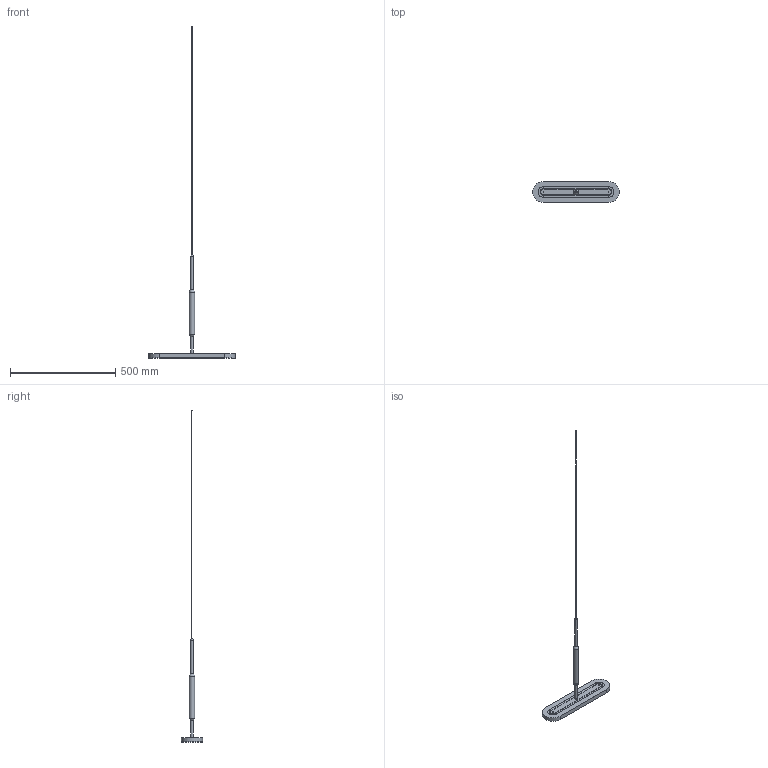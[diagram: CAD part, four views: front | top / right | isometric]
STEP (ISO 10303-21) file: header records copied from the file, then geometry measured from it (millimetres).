
FILE_DESCRIPTION(('HOOPS Exchange Step'),'2;1');
FILE_NAME('/Users/denyssokolov/Library/CloudStorage/GoogleDrive-svoyawork@gmail.com/Мій диск/Objects/PRESENTATION/46_FOG_lighting/NEW/FOG/fog_pill_410/models/FOG_pill_410.stp','2025-05-06T10:39:03+03:00',('denyssokolov'),('Unknown organisation'),'HOOPS Exchange 2024.2','HOOPS Exchange','Unknown authorisation');
FILE_SCHEMA( ('AP203_CONFIGURATION_CONTROLLED_3D_DESIGN_OF_MECHANICAL_PARTS_AND_ASSEMBLIES_MIM_LF') );
Length unit declared in the file: millimetre
Products named in the file (1): root
Bounding box: 410 x 100 x 1575.17 mm (x, y, z)
Volume: 723286.7 mm3; surface area: 228163.6 mm2
Topology: 15 solids, 15 shells, 397 faces, 952 edges, 587 vertices
Faces by surface type: plane 144, cone 144, bspline 58, cylinder 45, sphere 6
Full cylindrical faces by diameter (mm): 1.998 x12, 2 x6, 3 x12, 8 x2, 10 x5, 23 x1, 25 x1
Entity records: 17975 total; most frequent: CARTESIAN_POINT 8797, DIRECTION 1907, ORIENTED_EDGE 1900, EDGE_CURVE 950, AXIS2_PLACEMENT_3D 733, VERTEX_POINT 587, VECTOR 441, LINE 441
